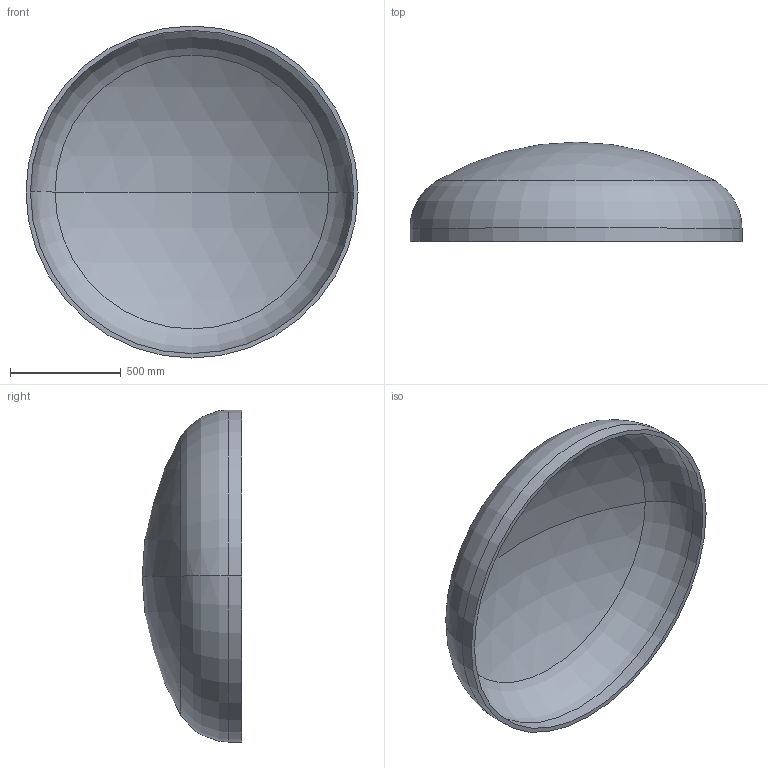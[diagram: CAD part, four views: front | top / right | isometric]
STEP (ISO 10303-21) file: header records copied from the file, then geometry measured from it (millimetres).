
FILE_DESCRIPTION (( 'STEP AP203' ), '1' );
FILE_NAME ('DIN 28013 Korbbogenform_-_Boden DIN 28013 - 1500 x 60 - I - s=20.step', '2016-07-01T10:38:42', ( '' ), ( '' ), 'SwSTEP 2.0', 'SolidWorks 2013', '' );
FILE_SCHEMA (( 'CONFIG_CONTROL_DESIGN' ));
Length unit declared in the file: millimetre
Products named in the file (1): DIN 28013 Korbbogenform_-_Boden DIN 28013 - 1500 x 60 - I - s=20
Bounding box: 1500 x 448.8 x 1500 mm (x, y, z)
Volume: 53632905.5 mm3; surface area: 5457117.6 mm2
Topology: 1 solids, 1 shells, 13 faces, 24 edges, 14 vertices
Faces by surface type: torus 4, cylinder 4, sphere 4, plane 1
Entity records: 407 total; most frequent: DIRECTION 72, CARTESIAN_POINT 52, ORIENTED_EDGE 48, AXIS2_PLACEMENT_3D 34, EDGE_CURVE 24, CIRCLE 20, EDGE_LOOP 14, VERTEX_POINT 14
